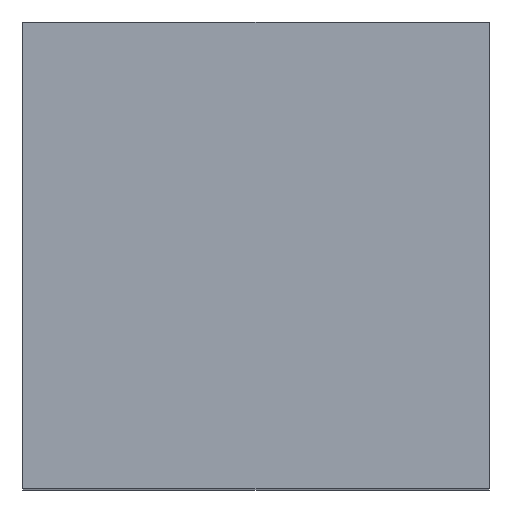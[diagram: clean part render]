
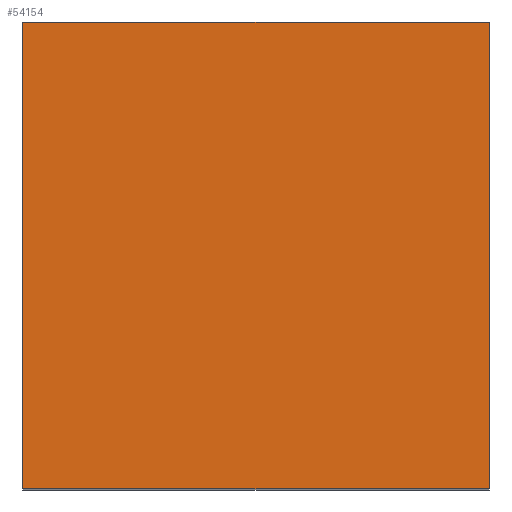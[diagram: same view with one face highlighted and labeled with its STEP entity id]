
A CAD part, top view. The second image highlights one B-rep face of the part: STEP entity #54154.
In plain terms, the highlighted planar face has unit normal (0, 0, 1).
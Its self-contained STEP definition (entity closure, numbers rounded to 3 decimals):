
#3988=FACE_OUTER_BOUND('',#7670,.T.);
#7670=EDGE_LOOP('',(#49191,#49192,#49193,#49194));
#14950=LINE('',#84239,#22236);
#14952=LINE('',#84243,#22238);
#14954=LINE('',#84247,#22240);
#14956=LINE('',#84250,#22242);
#22236=VECTOR('',#69425,10.);
#22238=VECTOR('',#69429,10.);
#22240=VECTOR('',#69433,10.);
#22242=VECTOR('',#69437,10.);
#27141=VERTEX_POINT('',#84236);
#27142=VERTEX_POINT('',#84238);
#27143=VERTEX_POINT('',#84242);
#27144=VERTEX_POINT('',#84246);
#34488=EDGE_CURVE('',#27142,#27141,#14950,.T.);
#34490=EDGE_CURVE('',#27143,#27142,#14952,.T.);
#34492=EDGE_CURVE('',#27144,#27143,#14954,.T.);
#34494=EDGE_CURVE('',#27141,#27144,#14956,.T.);
#49191=ORIENTED_EDGE('',*,*,#34494,.T.);
#49192=ORIENTED_EDGE('',*,*,#34492,.T.);
#49193=ORIENTED_EDGE('',*,*,#34490,.T.);
#49194=ORIENTED_EDGE('',*,*,#34488,.T.);
#51658=PLANE('',#56929);
#54154=ADVANCED_FACE('',(#3988),#51658,.T.);
#56929=AXIS2_PLACEMENT_3D('',#84251,#69438,#69439);
#69425=DIRECTION('',(1.,0.,0.));
#69429=DIRECTION('',(0.,-1.,0.));
#69433=DIRECTION('',(-1.,0.,0.));
#69437=DIRECTION('',(0.,1.,0.));
#69438=DIRECTION('center_axis',(0.,0.,1.));
#69439=DIRECTION('ref_axis',(1.,0.,0.));
#84236=CARTESIAN_POINT('',(1700.,-1576.5,1300.));
#84238=CARTESIAN_POINT('',(-1300.,-1576.5,1300.));
#84239=CARTESIAN_POINT('',(-1300.,-1576.5,1300.));
#84242=CARTESIAN_POINT('',(-1300.,1423.5,1300.));
#84243=CARTESIAN_POINT('',(-1300.,1423.5,1300.));
#84246=CARTESIAN_POINT('',(1700.,1423.5,1300.));
#84247=CARTESIAN_POINT('',(1700.,1423.5,1300.));
#84250=CARTESIAN_POINT('',(1700.,-1576.5,1300.));
#84251=CARTESIAN_POINT('Origin',(200.,-76.5,1300.));
